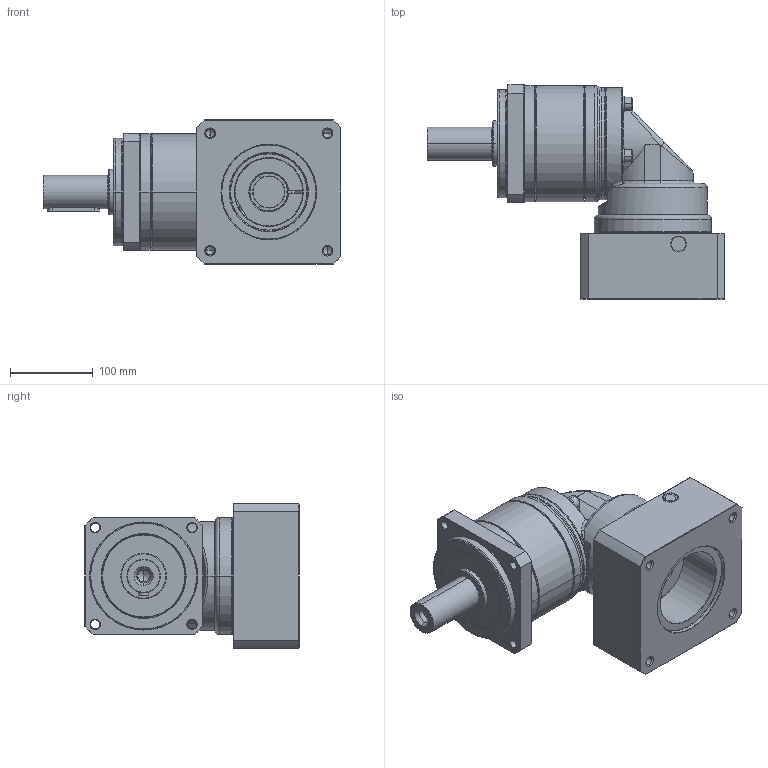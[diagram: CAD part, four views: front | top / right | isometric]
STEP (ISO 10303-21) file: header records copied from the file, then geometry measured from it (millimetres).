
FILE_DESCRIPTION((''),'2;1');
FILE_NAME('PA2R-142_1ST_38-P0411900101_ASM','2016-05-13T',('d01943'),(''),'PRO/ENGINEER BY PARAMETRIC TECHNOLOGY CORPORATION, 2008410','PRO/ENGINEER BY PARAMETRIC TECHNOLOGY CORPORATION, 2008410','');
FILE_SCHEMA(('CONFIG_CONTROL_DESIGN'));
Length unit declared in the file: millimetre
Products named in the file (12): P1327510001; P0250500001; P0350500601; P1349500001; P1017500001; P0713505001; P0503900010; P1350500501; P0411900101; P1702600001; 2111BA10040; PA2R-142_1ST_38-P0411900101_ASM
Assembly tree (14 placements, depth 2):
  PA2R-142_1ST_38-P0411900101_ASM
    P1327510001
    P0250500001
    P0350500601
    P1349500001
    P1017500001
    P0713505001
    P0503900010
    P1350500501
    P0411900101
    P1702600001
    2111BA10040  x4
Bounding box: 359 x 258.5 x 174 mm (x, y, z)
Volume: 4367163 mm3; surface area: 562313.1 mm2
Topology: 14 solids, 14 shells, 722 faces, 1593 edges, 923 vertices
Faces by surface type: cylinder 212, cone 210, plane 168, torus 100, bspline 32
Entity records: 23157 total; most frequent: CARTESIAN_POINT 9187, DIRECTION 3077, ORIENTED_EDGE 2714, EDGE_CURVE 1357, AXIS2_PLACEMENT_3D 1295, VERTEX_POINT 803, EDGE_LOOP 704, CIRCLE 678
